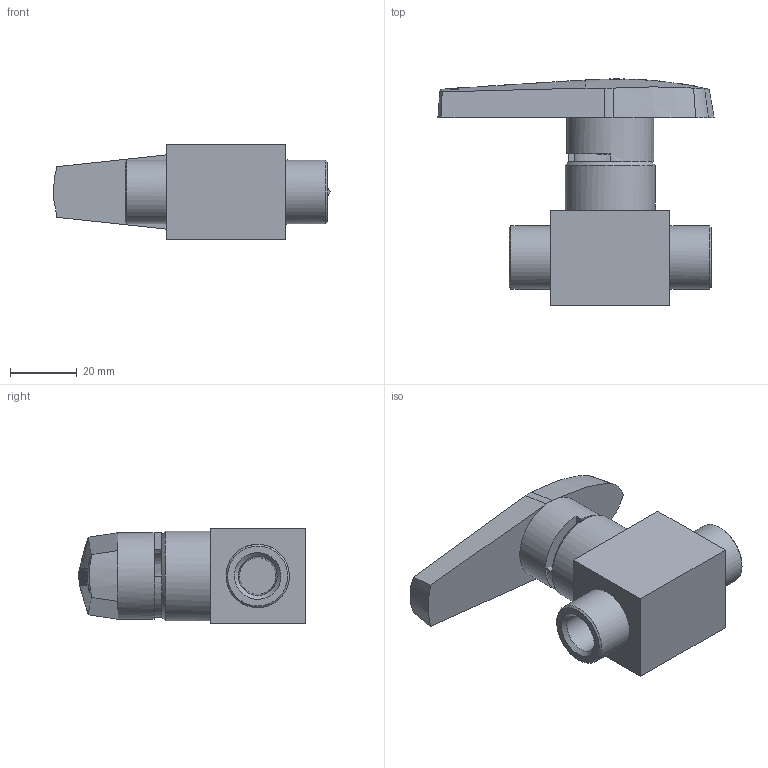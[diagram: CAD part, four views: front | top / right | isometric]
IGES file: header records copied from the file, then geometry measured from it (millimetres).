
Global section: file name: SBV120H3-F4N-S316; native system: Autodesk Inventor 2016; preprocessor: unknown; author: 이승민,,11,0; organization: 20161215.102123; date: 20161216.191401; units: millimetre
Bounding box: 82.89 x 67.9 x 28.5 mm (x, y, z)
Volume: 57353.4 mm3; surface area: 16274.5 mm2
Topology: 2 solids, 2 shells, 273 faces, 737 edges, 494 vertices
Faces by surface type: bspline 273
